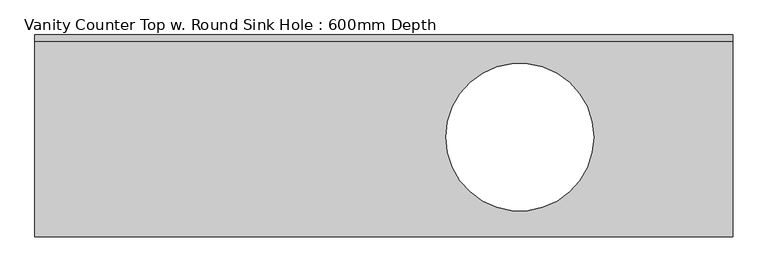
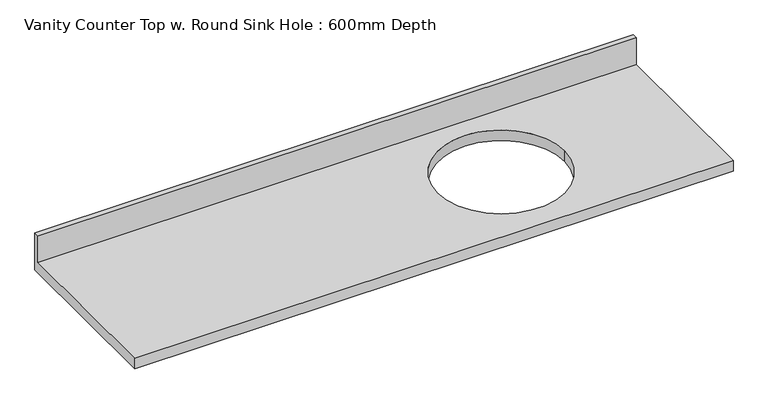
"""IFC4 building model written with IfcOpenShell, lengths in millimetres: furniture geometry, Vanity Counter Top w. Round Sink Hole : 600mm Depth."""

import ifcopenshell
import ifcopenshell.guid

model = None  # the IFC model being written
_history = None  # IfcOwnerHistory: only IFC2X3 demands one
_inside = {}  # id of a spatial element -> (the spatial element, [elements in it])
_under = {}  # id of a project, library or spatial element -> (it, [spatial elements below it])
_declared = {}  # id of a project -> (the project, [libraries it declares])
_typed = {}  # id of a type object -> (the type object, [elements of that type])
_made_of = {}  # id of a material, layer set ... -> (it, [elements and type objects made of it])


def new_model(schema):
    """Start an empty IFC model of exactly this schema.

    Asked for "IFC4X3", IfcOpenShell would pick the latest addendum, in which some entities
    have other attributes; the version numbers below select the first issue.
    IFC2X3 requires an IfcOwnerHistory on every rooted entity: one is made here for all.
    """
    global model, _history
    if schema == "IFC4X3":
        model = ifcopenshell.file(schema_version=(4, 3, 0, 0))
    else:
        model = ifcopenshell.file(schema=schema)
    _inside.clear()
    _under.clear()
    _declared.clear()
    _typed.clear()
    _made_of.clear()
    _history = None
    if model.schema == "IFC2X3":
        org = make("IfcOrganization", Name="unknown")
        user = make(
            "IfcPersonAndOrganization",
            ThePerson=make("IfcPerson", FamilyName="unknown"),
            TheOrganization=org,
        )
        app = make(
            "IfcApplication",
            ApplicationDeveloper=org,
            Version="unknown",
            ApplicationFullName="unknown",
            ApplicationIdentifier="unknown",
        )
        _history = make(
            "IfcOwnerHistory",
            OwningUser=user,
            OwningApplication=app,
            ChangeAction="ADDED",
            CreationDate=0,
        )
    return model


def make(cls, **values):
    """One entity of the class cls with the attributes given. An attribute that is None is left unset."""
    return model.create_entity(
        cls, **{name: value for name, value in values.items() if value is not None}
    )


def rooted(cls, **values):
    """An entity with a GlobalId (a new one), such as an element, a storey or a relation."""
    return make(cls, GlobalId=ifcopenshell.guid.new(), OwnerHistory=_history, **values)


def si_unit(unit_type, name, prefix=None):
    """IfcSIUnit, for example si_unit("LENGTHUNIT", "METRE", prefix="MILLI")."""
    return make("IfcSIUnit", UnitType=unit_type, Prefix=prefix, Name=name)


def assignment(units):
    """IfcUnitAssignment: the units of a project."""
    return None if units is None else make("IfcUnitAssignment", Units=units)


def point(xyz):
    """IfcCartesianPoint."""
    return None if xyz is None else make("IfcCartesianPoint", Coordinates=xyz)


def direction(xyz):
    """IfcDirection."""
    return None if xyz is None else make("IfcDirection", DirectionRatios=xyz)


def frame(location, z_axis=None, x_axis=None):
    """IfcAxis2Placement3D, a coordinate frame: its origin and axes. An axis left out is left unset."""
    return make(
        "IfcAxis2Placement3D",
        Location=point(location),
        Axis=direction(z_axis),
        RefDirection=direction(x_axis),
    )


def origin():
    """The frame at (0, 0, 0) with its axes left unset."""
    return frame((0.0, 0.0, 0.0))


def place(relative_to, where):
    """IfcLocalPlacement: puts the frame where relative to a parent placement (None: the world)."""
    return make(
        "IfcLocalPlacement", PlacementRelTo=relative_to, RelativePlacement=where
    )


def context(
    kind, dimensions, precision=None, world=None, true_north=None, identifier=None
):
    """IfcGeometricRepresentationContext, for example the 3D "Model" context."""
    return make(
        "IfcGeometricRepresentationContext",
        ContextIdentifier=identifier,
        ContextType=kind,
        CoordinateSpaceDimension=dimensions,
        Precision=precision,
        WorldCoordinateSystem=world,
        TrueNorth=true_north,
    )


def project(units=None, contexts=None):
    """IfcProject with its units and contexts."""
    return rooted(
        "IfcProject",
        Name="project",
        RepresentationContexts=contexts,
        UnitsInContext=assignment(units),
    )


def spatial(cls, under=None, at=None, **own):
    """A site, building, storey or space (cls), placed at a placement, below another one or the project."""
    s = rooted(cls, ObjectPlacement=at, **own)
    if under is not None:
        _under.setdefault(under.id(), (under, []))[1].append(s)
    return s


def polyline(points):
    """IfcPolyline through the points."""
    return make("IfcPolyline", Points=[point(p) for p in points])


def circle_curve(where, radius):
    """IfcCircle in the frame where."""
    return make("IfcCircle", Position=where, Radius=radius)


def shape(context_of_items, identifier, shape_type, items):
    """IfcShapeRepresentation: the items that make up one representation, for example the "Body"."""
    return make(
        "IfcShapeRepresentation",
        ContextOfItems=context_of_items,
        RepresentationIdentifier=identifier,
        RepresentationType=shape_type,
        Items=items,
    )


def source(mapping_origin, context_of_items, identifier, shape_type, items):
    """IfcRepresentationMap: a shape defined once, which mapped items show again and again."""
    return make(
        "IfcRepresentationMap",
        MappingOrigin=mapping_origin,
        MappedRepresentation=shape(context_of_items, identifier, shape_type, items),
    )


def transform(
    local_origin,
    x_axis=None,
    y_axis=None,
    z_axis=None,
    scale=None,
    scale2=None,
    scale3=None,
    uniform=True,
):
    """IfcCartesianTransformationOperator3D, or its non-uniform kind. x_axis, y_axis, z_axis: its Axis1, 2, 3."""
    if uniform:
        return make(
            "IfcCartesianTransformationOperator3D",
            Axis1=direction(x_axis),
            Axis2=direction(y_axis),
            LocalOrigin=point(local_origin),
            Scale=scale,
            Axis3=direction(z_axis),
        )
    return make(
        "IfcCartesianTransformationOperator3DnonUniform",
        Axis1=direction(x_axis),
        Axis2=direction(y_axis),
        LocalOrigin=point(local_origin),
        Scale=scale,
        Axis3=direction(z_axis),
        Scale2=scale2,
        Scale3=scale3,
    )


def mapped(mapping_source, mapping_target):
    """IfcMappedItem: shows the shape of a source again, moved by a transform."""
    return make(
        "IfcMappedItem", MappingSource=mapping_source, MappingTarget=mapping_target
    )


def made_of(thing, what):
    """Note that an element or type object is made of a material, layer set ...; save() writes the relation."""
    if what is not None:
        _made_of.setdefault(what.id(), (what, []))[1].append(thing)
    return thing


def element(
    cls,
    number,
    at=None,
    inside=None,
    cuts=None,
    type_object=None,
    material=None,
    context=None,
    identifier="Body",
    shape_type=None,
    held_by="IfcProductDefinitionShape",
    body=None,
    shapes=None,
    **own,
):
    """One element of the class cls, such as IfcWall. Its Tag is "e" and its number.

    at: its placement. inside: the storey or other place that contains it. cuts: it is an
    opening in that element (IfcRelVoidsElement). A single representation is given by context,
    identifier, shape_type and body (its items); several are given by shapes. held_by: the class
    of the entity that holds the representations. save() writes the other relations.
    """
    e = rooted(cls, Tag="e%d" % number, ObjectPlacement=at, **own)
    if body is not None:
        shapes = [shape(context, identifier, shape_type, body)]
    if shapes is not None:
        e.Representation = make(held_by, Representations=shapes)
    if inside is not None:
        _inside.setdefault(inside.id(), (inside, []))[1].append(e)
    if cuts is not None:
        rooted(
            "IfcRelVoidsElement", RelatingBuildingElement=cuts, RelatedOpeningElement=e
        )
    if type_object is not None:
        _typed.setdefault(type_object.id(), (type_object, []))[1].append(e)
    return made_of(e, material)


def aggregate(whole, parts):
    """IfcRelAggregates: a whole, such as a stair, and the parts it consists of."""
    return rooted("IfcRelAggregates", RelatingObject=whole, RelatedObjects=parts)


def save(model, path):
    """Write the relations noted so far, then the file.

    IfcRelAggregates (storeys below a building ...), IfcRelContainedInSpatialStructure (elements
    in a storey), IfcRelDefinesByType, IfcRelAssociatesMaterial and IfcRelDeclares: one each for
    every whole, place, type object, material and project.
    """
    for whole, parts in _under.values():
        aggregate(whole, parts)
    for where, things in _inside.values():
        rooted(
            "IfcRelContainedInSpatialStructure",
            RelatedElements=things,
            RelatingStructure=where,
        )
    for kind, things in _typed.values():
        rooted("IfcRelDefinesByType", RelatedObjects=things, RelatingType=kind)
    for what, things in _made_of.values():
        rooted("IfcRelAssociatesMaterial", RelatedObjects=things, RelatingMaterial=what)
    for by, libraries in _declared.values():
        rooted("IfcRelDeclares", RelatingContext=by, RelatedDefinitions=libraries)
    model.write(path)


def plane_surface(at):
    """IfcPlane: the flat surface through the origin of the frame at, square to its z axis."""
    return make("IfcPlane", Position=at)


def revolved_surface(curve, axis_point, axis_direction):
    """IfcSurfaceOfRevolution: the curve turned about the line through axis_point along axis_direction."""
    return make(
        "IfcSurfaceOfRevolution",
        SweptCurve=make("IfcArbitraryOpenProfileDef", ProfileType="CURVE", Curve=curve),
        AxisPosition=make("IfcAxis1Placement", Location=point(axis_point), Axis=direction(axis_direction)),
    )


def advanced_brep(points, edges, surfaces, faces):
    """IfcAdvancedBrep: a solid bounded by faces that lie on surfaces and meet in shared edges.

    An edge is (start, end): straight between two places in points (the first is 0);
    or (start, end, curve); or (start, end, curve, False) where it runs against its curve.
    A face is (place in surfaces, loops), or (place, loops, False) where it looks against
    its surface's normal. A loop lists edges by number (the first is 1), with a minus sign
    where the edge is run from its end to its start. The first loop is the outer one.
    """
    corners = [point(p) for p in points]
    vertices = [make("IfcVertexPoint", VertexGeometry=c) for c in corners]
    made = []
    for start, end, *more in edges:
        made.append(
            make(
                "IfcEdgeCurve",
                EdgeStart=vertices[start],
                EdgeEnd=vertices[end],
                EdgeGeometry=more[0] if more else make("IfcPolyline", Points=[corners[start], corners[end]]),
                SameSense=more[1] if len(more) > 1 else True,
            )
        )
    hull = []
    for where, loops, *sense in faces:
        bounds = []
        for j, loop in enumerate(loops):
            ring = [make("IfcOrientedEdge", EdgeElement=made[abs(k) - 1], Orientation=k > 0) for k in loop]
            bounds.append(
                make(
                    "IfcFaceOuterBound" if j == 0 else "IfcFaceBound",
                    Bound=make("IfcEdgeLoop", EdgeList=ring),
                    Orientation=True,
                )
            )
        hull.append(make("IfcAdvancedFace", Bounds=bounds, FaceSurface=surfaces[where], SameSense=sense[0] if sense else True))
    return make("IfcAdvancedBrep", Outer=make("IfcClosedShell", CfsFaces=hull))


def vanity_counter_top_w_round_sink_hole_600mm_depth_ba51d22c(model_context):
    return source(origin(), model_context, "Body", "AdvancedBrep", [
        advanced_brep(
        [(-1327.4622951, 0.0, 851.6), (-1327.4622951, -19.05, 851.6), (832.5377049, -19.05, 851.6), (832.5377049, 0.0, 851.6), (-1327.4622951, 0.0, 710.0), (-1327.4622951, -625.0, 710.0), (-1327.4622951, -625.0, 750.0), (-1327.4622951, -19.05, 750.0), (832.5377049, -19.05, 750.0), (832.5377049, -625.0, 750.0), (832.5377049, -625.0, 710.0), (832.5377049, 0.0, 710.0), (402.4426062, -316.0, 750.0), (402.4426062, -316.0, 710.0), (-54.9573938, -316.0, 710.0), (-54.9573938, -316.0, 750.0)],
        [
            (0, 1),
            (1, 2),
            (2, 3),
            (3, 0),
            (0, 4),
            (4, 5),
            (5, 6),
            (6, 7),
            (7, 1),
            (7, 8),
            (8, 2),
            (8, 9),
            (9, 10),
            (10, 11),
            (11, 3),
            (11, 4),
            (12, 13),
            (13, 14, circle_curve(frame((173.7426062, -316.0, 710.0), z_axis=(0.0, 0.0, -1.0), x_axis=(1.0, 0.0, 0.0)), 228.7)),
            (14, 15),
            (15, 12, circle_curve(frame((173.7426062, -316.0, 750.0), z_axis=(0.0, 0.0, 1.0), x_axis=(1.0, 0.0, 0.0)), 228.7)),
            (12, 15, circle_curve(frame((173.7426062, -316.0, 750.0), z_axis=(0.0, 0.0, 1.0), x_axis=(1.0, 0.0, 0.0)), 228.7)),
            (14, 13, circle_curve(frame((173.7426062, -316.0, 710.0), z_axis=(0.0, 0.0, -1.0), x_axis=(1.0, 0.0, 0.0)), 228.7)),
            (6, 9),
            (10, 5),
        ],
        [
            plane_surface(frame((-1327.4622951, 0.0, 851.6), z_axis=(0.0, 0.0, 1.0), x_axis=(0.0, -1.0, 0.0))),
            plane_surface(frame((-1327.4622951, 0.0, 851.6), z_axis=(-1.0, 0.0, 0.0), x_axis=(0.0, 0.0, -1.0))),
            plane_surface(frame((-1327.4622951, -19.05, 851.6), z_axis=(0.0, -1.0, 0.0), x_axis=(0.0, 0.0, -1.0))),
            plane_surface(frame((832.5377049, -19.05, 851.6), z_axis=(1.0, 0.0, 0.0), x_axis=(0.0, 0.0, -1.0))),
            plane_surface(frame((832.5377049, 0.0, 851.6), z_axis=(0.0, 1.0, 0.0), x_axis=(0.0, 0.0, -1.0))),
            revolved_surface(polyline([(402.4426062, -316.0, 750.0), (402.4426062, -316.0, 710.0)]), (173.7426062, -316.0, 710.0), (0.0, 0.0, 1.0)),
            plane_surface(frame((-1327.4622951, 0.0, 750.0), z_axis=(0.0, 0.0, 1.0), x_axis=(-1.0, 0.0, 0.0))),
            plane_surface(frame((-1327.4622951, 0.0, 710.0), z_axis=(0.0, 0.0, -1.0), x_axis=(1.0, 0.0, 0.0))),
            plane_surface(frame((-1327.4622951, -625.0, 750.0), z_axis=(0.0, -1.0, 0.0), x_axis=(0.0, 0.0, -1.0))),
        ],
        [
            (0, [[1, 2, 3, 4]]),
            (1, [[-1, 5, 6, 7, 8, 9]]),
            (2, [[-2, -9, 10, 11]]),
            (3, [[-3, -11, 12, 13, 14, 15]]),
            (4, [[-4, -15, 16, -5]]),
            (5, [[17, 18, 19, 20]]),
            (5, [[-17, 21, -19, 22]]),
            (6, [[23, -12, -10, -8], [-20, -21]]),
            (7, [[-14, 24, -6, -16], [-18, -22]]),
            (8, [[-23, -7, -24, -13]]),
        ],
    ),
    ])


if __name__ == "__main__":
    model = new_model("IFC4")
    model_context = context("Model", 3, world=origin())
    ifc_project = project(units=[si_unit("LENGTHUNIT", "METRE", prefix="MILLI")], contexts=[model_context])
    site = spatial("IfcSite", under=ifc_project)
    building = spatial("IfcBuilding", under=site)
    placement = place(None, origin())
    vanity_counter_top_w_round_sink_hole_600mm_depth_shape = vanity_counter_top_w_round_sink_hole_600mm_depth_ba51d22c(model_context)
    element("IfcFurniture", 1, ObjectType="Vanity Counter Top w. Round Sink Hole : 600mm Depth", at=placement, inside=building, context=model_context, shape_type="MappedRepresentation", body=[
        mapped(vanity_counter_top_w_round_sink_hole_600mm_depth_shape, transform((0.0, 0.0, 0.0), x_axis=(1.0, 0.0, 0.0), y_axis=(0.0, 1.0, 0.0), z_axis=(0.0, 0.0, 1.0))),
    ])
    save(model, "model.ifc")
